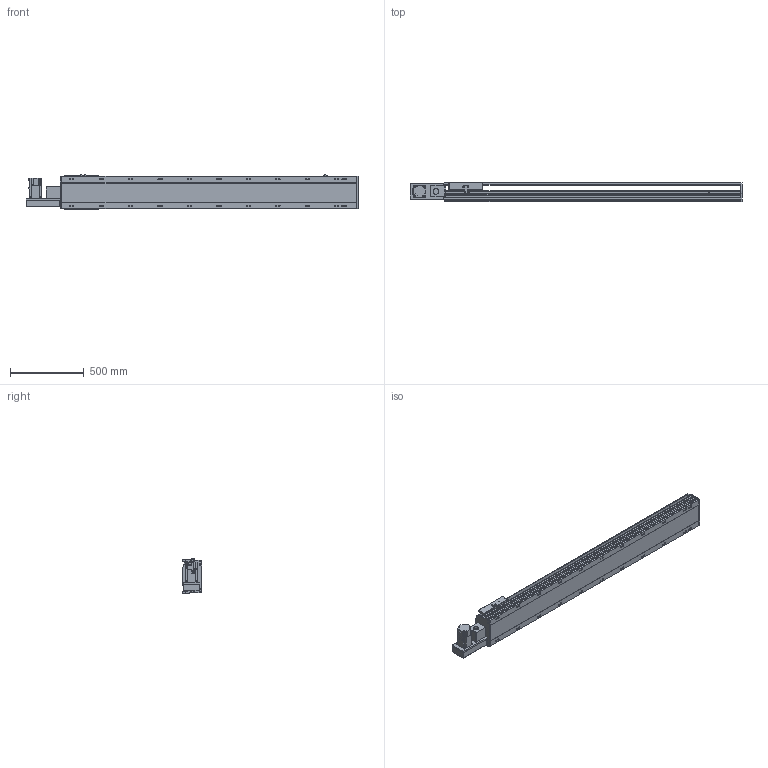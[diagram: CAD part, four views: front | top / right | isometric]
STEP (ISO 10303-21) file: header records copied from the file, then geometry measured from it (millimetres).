
FILE_DESCRIPTION(/* description */ ('STEP AP214'),/* implementation_level */ '2;1');
FILE_NAME(/* name */ 'PBS220-P40-S1650-L-T75-C1-N(0)',/* time_stamp */ '2022-06-11T09:56:31+02:00',/* author */ ('License CC BY-ND 4.0'),/* organization */ ('CADENAS'),/* preprocessor_version */ 'ST-DEVELOPER v18.102',/* originating_system */ 'PARTsolutions',/* authorisation */ ' ');
FILE_SCHEMA (('AUTOMOTIVE_DESIGN {1 0 10303 214 3 1 1}'));
Length unit declared in the file: millimetre
Products named in the file (7): PBS220-P40-S1650-L-T75-C1-N(0); PBS220_sensor; PBS220_plant; PBS220_sliser; T75-p1; PBS220T-L_motors; PBS220-S1650()_body
Assembly tree (8 placements, depth 2):
  PBS220-P40-S1650-L-T75-C1-N(0)
    PBS220_sensor  x3
    PBS220_plant
    PBS220_sliser
    T75-p1
    PBS220T-L_motors
    PBS220-S1650()_body
Bounding box: 2256 x 134 x 238.5 mm (x, y, z)
Volume: 30205783.2 mm3; surface area: 2846956.3 mm2
Topology: 8 solids, 8 shells, 950 faces, 2480 edges, 1612 vertices
Faces by surface type: plane 610, cylinder 294, cone 46
Full cylindrical faces by diameter (mm): 2.013 x4, 4.5 x14, 4.917 x4, 6 x7, 6.647 x8, 8 x10, 8.376 x22, 8.5 x22, 10 x6, 14 x22, 38 x2, 40 x1, 70 x1
Entity records: 26565 total; most frequent: CARTESIAN_POINT 4690, DIRECTION 4617, ORIENTED_EDGE 4214, EDGE_CURVE 2107, AXIS2_PLACEMENT_3D 1633, VERTEX_POINT 1464, LINE 1351, VECTOR 1351
